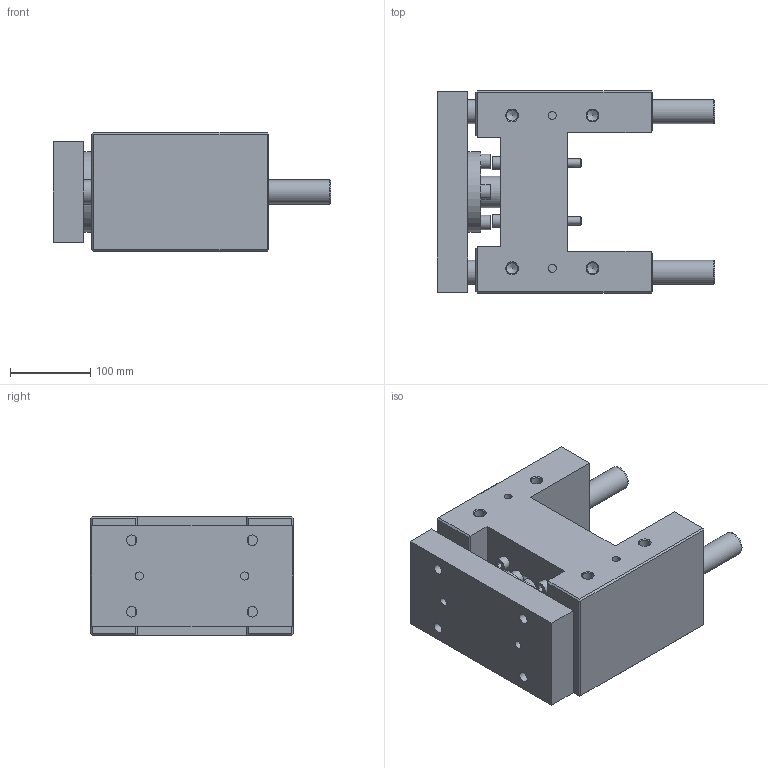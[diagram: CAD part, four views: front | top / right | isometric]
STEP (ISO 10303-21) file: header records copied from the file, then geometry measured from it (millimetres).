
FILE_DESCRIPTION( ( 'STEP AP214' ), '1' );
FILE_NAME( 'U:/Etudes/Top Solid/BIBLIO 3D AVM/TOP/PNEUMATIQUE/GUIDAGES/Type 32 (en H)/R_Renforcée/328R0230.step', '2005-05-27T09:13:31', ( ' ' ), ( ' ' ), 'XStep 1.0', ' ', ' ' );
FILE_SCHEMA( ( 'automotive_design' ) );
Length unit declared in the file: metre
Products named in the file (2): 1; 2
Bounding box: 345 x 252 x 148 mm (x, y, z)
Volume: 6426693.4 mm3; surface area: 520032.2 mm2
Topology: 2 solids, 7 shells, 239 faces, 527 edges, 341 vertices
Faces by surface type: plane 149, cylinder 69, cone 21
Full cylindrical faces by diameter (mm): 10 x12, 10.106 x4, 11 x4, 12 x8, 13 x8, 13.835 x8, 16 x4, 18 x4, 18.376 x2, 20 x4, 30 x4, 39 x1, 42 x1, 45 x1, 57 x1, 60 x1, 65 x1, 100 x1
Entity records: 7933 total; most frequent: CARTESIAN_POINT 1201, DIRECTION 1000, ORIENTED_EDGE 786, EDGE_CURVE 393, EDGE_LOOP 392, AXIS2_PLACEMENT_3D 374, FACE_OUTER_BOUND 308, VERTEX_POINT 303
